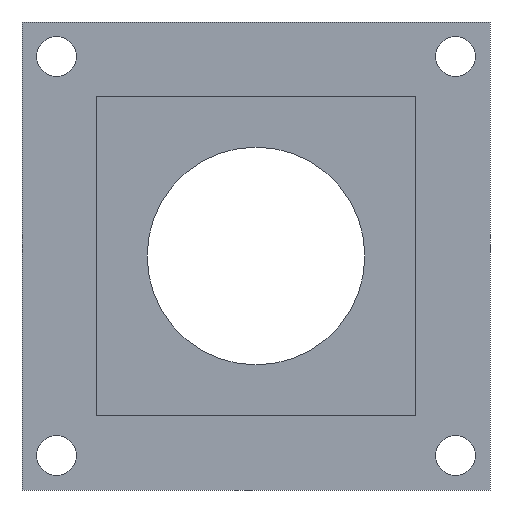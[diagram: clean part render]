
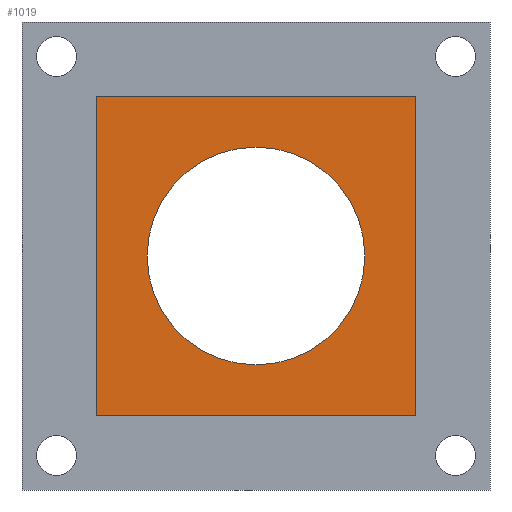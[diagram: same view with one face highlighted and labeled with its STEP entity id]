
A CAD part, left-side view. The second image highlights one B-rep face of the part: STEP entity #1019.
In plain terms, the highlighted planar face has unit normal (-1, 0, 0).
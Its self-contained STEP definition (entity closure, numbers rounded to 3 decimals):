
#250 = PLANE('',#251);
#251 = AXIS2_PLACEMENT_3D('',#252,#253,#254);
#252 = CARTESIAN_POINT('',(58.,16.2,8.2));
#253 = DIRECTION('',(0.,0.,1.));
#254 = DIRECTION('',(1.,0.,-0.));
#276 = PLANE('',#277);
#277 = AXIS2_PLACEMENT_3D('',#278,#279,#280);
#278 = CARTESIAN_POINT('',(58.,16.2,8.2));
#279 = DIRECTION('',(-0.,1.,0.));
#280 = DIRECTION('',(0.,0.,1.));
#302 = PLANE('',#303);
#303 = AXIS2_PLACEMENT_3D('',#304,#305,#306);
#304 = CARTESIAN_POINT('',(58.,16.2,25.8));
#305 = DIRECTION('',(0.,0.,1.));
#306 = DIRECTION('',(1.,0.,-0.));
#326 = PLANE('',#327);
#327 = AXIS2_PLACEMENT_3D('',#328,#329,#330);
#328 = CARTESIAN_POINT('',(58.,33.8,8.2));
#329 = DIRECTION('',(-0.,1.,0.));
#330 = DIRECTION('',(0.,0.,1.));
#723 = VERTEX_POINT('',#724);
#724 = CARTESIAN_POINT('',(58.,33.8,8.2));
#745 = EDGE_CURVE('',#746,#723,#748,.T.);
#746 = VERTEX_POINT('',#747);
#747 = CARTESIAN_POINT('',(58.,16.2,8.2));
#748 = SURFACE_CURVE('',#749,(#753,#760),.PCURVE_S1.);
#749 = LINE('',#750,#751);
#750 = CARTESIAN_POINT('',(58.,16.2,8.2));
#751 = VECTOR('',#752,1.);
#752 = DIRECTION('',(-0.,1.,0.));
#753 = PCURVE('',#250,#754);
#754 = DEFINITIONAL_REPRESENTATION('',(#755),#759);
#755 = LINE('',#756,#757);
#756 = CARTESIAN_POINT('',(0.,0.));
#757 = VECTOR('',#758,1.);
#758 = DIRECTION('',(0.,1.));
#759 = ( GEOMETRIC_REPRESENTATION_CONTEXT(2) 
PARAMETRIC_REPRESENTATION_CONTEXT() REPRESENTATION_CONTEXT('2D SPACE',''
  ) );
#760 = PCURVE('',#761,#766);
#761 = PLANE('',#762);
#762 = AXIS2_PLACEMENT_3D('',#763,#764,#765);
#763 = CARTESIAN_POINT('',(58.,16.2,8.2));
#764 = DIRECTION('',(1.,0.,-0.));
#765 = DIRECTION('',(0.,0.,1.));
#766 = DEFINITIONAL_REPRESENTATION('',(#767),#771);
#767 = LINE('',#768,#769);
#768 = CARTESIAN_POINT('',(0.,0.));
#769 = VECTOR('',#770,1.);
#770 = DIRECTION('',(0.,-1.));
#771 = ( GEOMETRIC_REPRESENTATION_CONTEXT(2) 
PARAMETRIC_REPRESENTATION_CONTEXT() REPRESENTATION_CONTEXT('2D SPACE',''
  ) );
#799 = EDGE_CURVE('',#723,#800,#802,.T.);
#800 = VERTEX_POINT('',#801);
#801 = CARTESIAN_POINT('',(58.,33.8,25.8));
#802 = SURFACE_CURVE('',#803,(#807,#814),.PCURVE_S1.);
#803 = LINE('',#804,#805);
#804 = CARTESIAN_POINT('',(58.,33.8,8.2));
#805 = VECTOR('',#806,1.);
#806 = DIRECTION('',(0.,0.,1.));
#807 = PCURVE('',#326,#808);
#808 = DEFINITIONAL_REPRESENTATION('',(#809),#813);
#809 = LINE('',#810,#811);
#810 = CARTESIAN_POINT('',(0.,0.));
#811 = VECTOR('',#812,1.);
#812 = DIRECTION('',(1.,0.));
#813 = ( GEOMETRIC_REPRESENTATION_CONTEXT(2) 
PARAMETRIC_REPRESENTATION_CONTEXT() REPRESENTATION_CONTEXT('2D SPACE',''
  ) );
#814 = PCURVE('',#761,#815);
#815 = DEFINITIONAL_REPRESENTATION('',(#816),#820);
#816 = LINE('',#817,#818);
#817 = CARTESIAN_POINT('',(0.,-17.6));
#818 = VECTOR('',#819,1.);
#819 = DIRECTION('',(1.,0.));
#820 = ( GEOMETRIC_REPRESENTATION_CONTEXT(2) 
PARAMETRIC_REPRESENTATION_CONTEXT() REPRESENTATION_CONTEXT('2D SPACE',''
  ) );
#848 = EDGE_CURVE('',#746,#849,#851,.T.);
#849 = VERTEX_POINT('',#850);
#850 = CARTESIAN_POINT('',(58.,16.2,25.8));
#851 = SURFACE_CURVE('',#852,(#856,#863),.PCURVE_S1.);
#852 = LINE('',#853,#854);
#853 = CARTESIAN_POINT('',(58.,16.2,8.2));
#854 = VECTOR('',#855,1.);
#855 = DIRECTION('',(0.,0.,1.));
#856 = PCURVE('',#276,#857);
#857 = DEFINITIONAL_REPRESENTATION('',(#858),#862);
#858 = LINE('',#859,#860);
#859 = CARTESIAN_POINT('',(0.,0.));
#860 = VECTOR('',#861,1.);
#861 = DIRECTION('',(1.,0.));
#862 = ( GEOMETRIC_REPRESENTATION_CONTEXT(2) 
PARAMETRIC_REPRESENTATION_CONTEXT() REPRESENTATION_CONTEXT('2D SPACE',''
  ) );
#863 = PCURVE('',#761,#864);
#864 = DEFINITIONAL_REPRESENTATION('',(#865),#869);
#865 = LINE('',#866,#867);
#866 = CARTESIAN_POINT('',(0.,0.));
#867 = VECTOR('',#868,1.);
#868 = DIRECTION('',(1.,0.));
#869 = ( GEOMETRIC_REPRESENTATION_CONTEXT(2) 
PARAMETRIC_REPRESENTATION_CONTEXT() REPRESENTATION_CONTEXT('2D SPACE',''
  ) );
#897 = EDGE_CURVE('',#849,#800,#898,.T.);
#898 = SURFACE_CURVE('',#899,(#903,#910),.PCURVE_S1.);
#899 = LINE('',#900,#901);
#900 = CARTESIAN_POINT('',(58.,16.2,25.8));
#901 = VECTOR('',#902,1.);
#902 = DIRECTION('',(-0.,1.,0.));
#903 = PCURVE('',#302,#904);
#904 = DEFINITIONAL_REPRESENTATION('',(#905),#909);
#905 = LINE('',#906,#907);
#906 = CARTESIAN_POINT('',(0.,0.));
#907 = VECTOR('',#908,1.);
#908 = DIRECTION('',(0.,1.));
#909 = ( GEOMETRIC_REPRESENTATION_CONTEXT(2) 
PARAMETRIC_REPRESENTATION_CONTEXT() REPRESENTATION_CONTEXT('2D SPACE',''
  ) );
#910 = PCURVE('',#761,#911);
#911 = DEFINITIONAL_REPRESENTATION('',(#912),#916);
#912 = LINE('',#913,#914);
#913 = CARTESIAN_POINT('',(17.6,0.));
#914 = VECTOR('',#915,1.);
#915 = DIRECTION('',(0.,-1.));
#916 = ( GEOMETRIC_REPRESENTATION_CONTEXT(2) 
PARAMETRIC_REPRESENTATION_CONTEXT() REPRESENTATION_CONTEXT('2D SPACE',''
  ) );
#1002 = CYLINDRICAL_SURFACE('',#1003,6.);
#1003 = AXIS2_PLACEMENT_3D('',#1004,#1005,#1006);
#1004 = CARTESIAN_POINT('',(57.9,25.,17.));
#1005 = DIRECTION('',(1.,0.,0.));
#1006 = DIRECTION('',(-0.,0.,1.));
#1019 = ADVANCED_FACE('',(#1020,#1026),#761,.F.);
#1020 = FACE_BOUND('',#1021,.F.);
#1021 = EDGE_LOOP('',(#1022,#1023,#1024,#1025));
#1022 = ORIENTED_EDGE('',*,*,#848,.F.);
#1023 = ORIENTED_EDGE('',*,*,#745,.T.);
#1024 = ORIENTED_EDGE('',*,*,#799,.T.);
#1025 = ORIENTED_EDGE('',*,*,#897,.F.);
#1026 = FACE_BOUND('',#1027,.F.);
#1027 = EDGE_LOOP('',(#1028));
#1028 = ORIENTED_EDGE('',*,*,#1029,.F.);
#1029 = EDGE_CURVE('',#1030,#1030,#1032,.T.);
#1030 = VERTEX_POINT('',#1031);
#1031 = CARTESIAN_POINT('',(58.,25.,23.));
#1032 = SURFACE_CURVE('',#1033,(#1038,#1045),.PCURVE_S1.);
#1033 = CIRCLE('',#1034,6.);
#1034 = AXIS2_PLACEMENT_3D('',#1035,#1036,#1037);
#1035 = CARTESIAN_POINT('',(58.,25.,17.));
#1036 = DIRECTION('',(1.,0.,0.));
#1037 = DIRECTION('',(-0.,0.,1.));
#1038 = PCURVE('',#761,#1039);
#1039 = DEFINITIONAL_REPRESENTATION('',(#1040),#1044);
#1040 = CIRCLE('',#1041,6.);
#1041 = AXIS2_PLACEMENT_2D('',#1042,#1043);
#1042 = CARTESIAN_POINT('',(8.8,-8.8));
#1043 = DIRECTION('',(1.,0.));
#1044 = ( GEOMETRIC_REPRESENTATION_CONTEXT(2) 
PARAMETRIC_REPRESENTATION_CONTEXT() REPRESENTATION_CONTEXT('2D SPACE',''
  ) );
#1045 = PCURVE('',#1002,#1046);
#1046 = DEFINITIONAL_REPRESENTATION('',(#1047),#1051);
#1047 = LINE('',#1048,#1049);
#1048 = CARTESIAN_POINT('',(0.,0.1));
#1049 = VECTOR('',#1050,1.);
#1050 = DIRECTION('',(1.,0.));
#1051 = ( GEOMETRIC_REPRESENTATION_CONTEXT(2) 
PARAMETRIC_REPRESENTATION_CONTEXT() REPRESENTATION_CONTEXT('2D SPACE',''
  ) );
